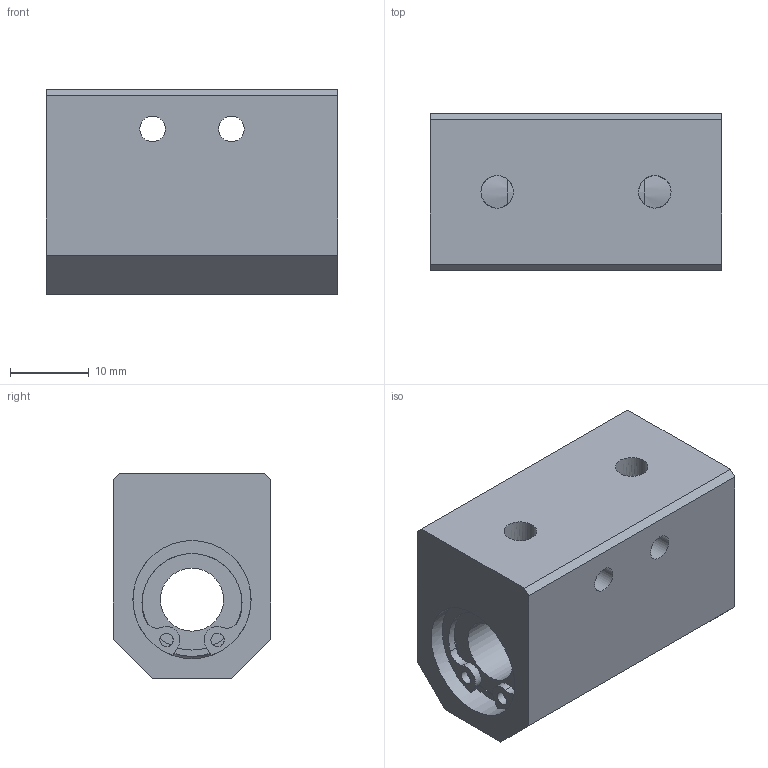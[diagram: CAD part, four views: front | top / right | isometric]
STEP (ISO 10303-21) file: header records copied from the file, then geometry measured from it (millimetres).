
FILE_DESCRIPTION((''),'2;1');
FILE_NAME('D:\製品 (図面)\カタログ用3D\メンテナンスフリー関連\STEP形式\CH-MF\CH8MF.stp','2010-06-01T15:27:12',('Tsuchiya'),(''),'Autodesk Inventor 10','Autodesk Inventor 10','');
FILE_SCHEMA(('AUTOMOTIVE_DESIGN { 1 0 10303 214 1 1 1 1 }'));
Length unit declared in the file: millimetre
Products named in the file (1): CH8MF
Bounding box: 37 x 20 x 26 mm (x, y, z)
Volume: 14969 mm3; surface area: 6273.4 mm2
Topology: 1 solids, 1 shells, 75 faces, 199 edges, 124 vertices
Faces by surface type: plane 33, bspline 22, cylinder 18, torus 2
Full cylindrical faces by diameter (mm): 1.7 x2, 8 x1, 12.8 x2, 14.3 x2, 15 x4
Entity records: 2408 total; most frequent: CARTESIAN_POINT 708, DIRECTION 356, ORIENTED_EDGE 316, EDGE_CURVE 158, AXIS2_PLACEMENT_3D 150, EDGE_LOOP 118, VERTEX_POINT 106, CIRCLE 96
